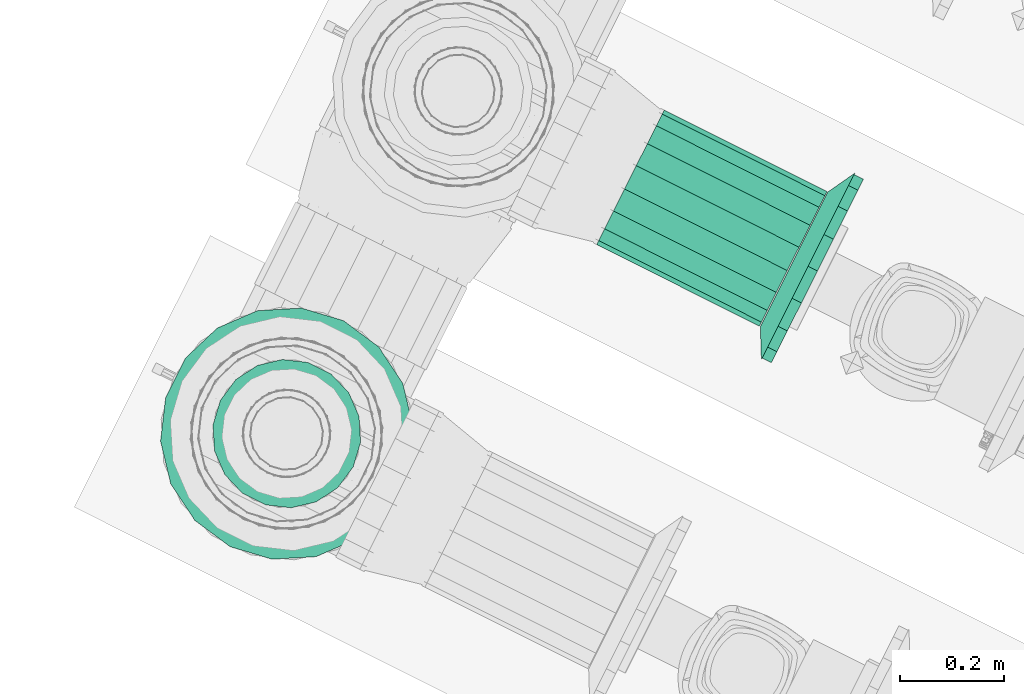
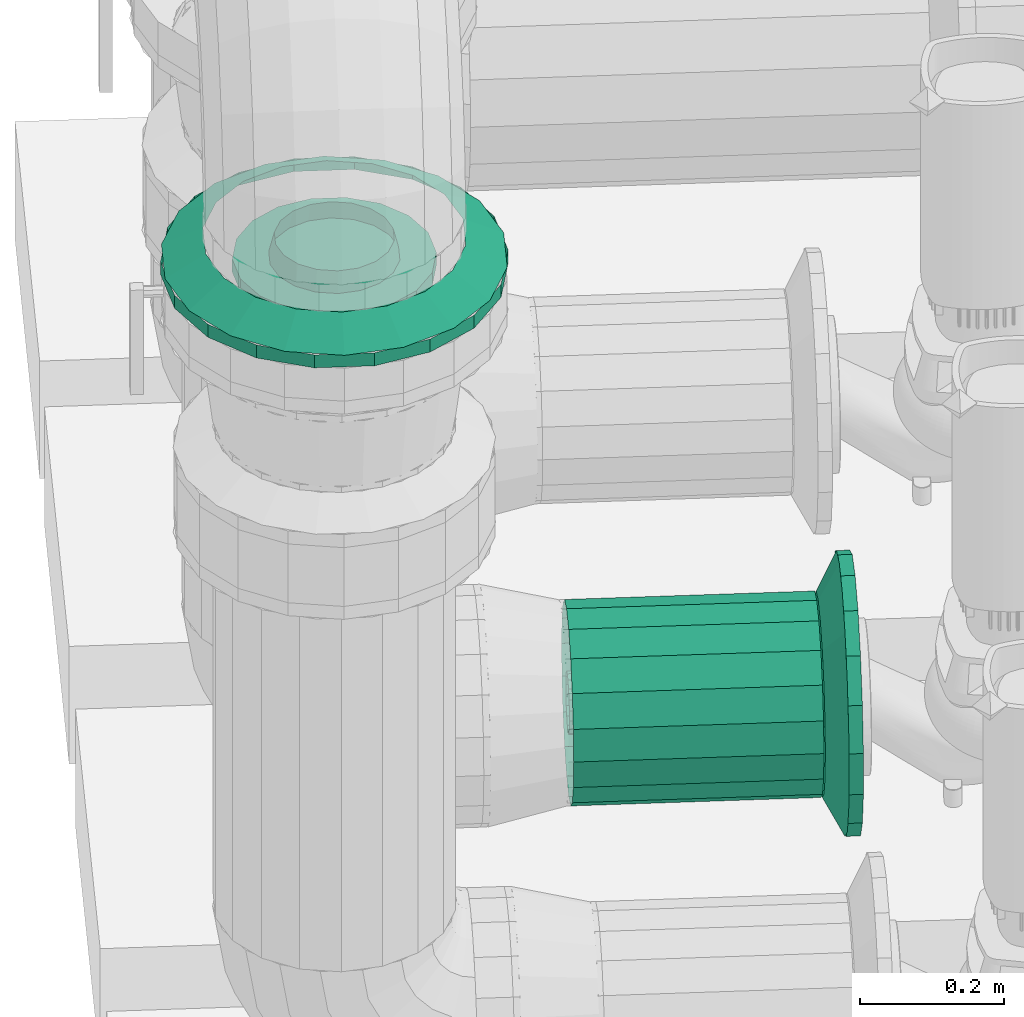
# One storey, part 101 of 152: 2 flow fittings, 1 flow segment.
"""IFC2X3 building model written with IfcOpenShell, lengths in metres."""

from ifc_helpers import new_model, si_unit, derived_unit, direction, frame, origin, place, context, subcontext, project, spatial, face_set, surface_model, source, transform, mapped, material, type_object, type_shapes, element, save


model = new_model("IFC2X3")

# Units and contexts
model_context = context("Model", 3, precision=5.2338327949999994e-05, world=origin(), true_north=direction((0.0, 1.0)))
body_context = subcontext(model_context, "Body", "Model", "MODEL_VIEW")
ifc_project = project(units=[si_unit("LENGTHUNIT", "METRE"), si_unit("AREAUNIT", "SQUARE_METRE"), si_unit("VOLUMEUNIT", "CUBIC_METRE"), si_unit("MASSUNIT", "GRAM", prefix="KILO"), si_unit("PLANEANGLEUNIT", "RADIAN"), derived_unit("THERMALTRANSMITTANCEUNIT", [(si_unit("MASSUNIT", "GRAM", prefix="KILO"), 1), (si_unit("THERMODYNAMICTEMPERATUREUNIT", "KELVIN"), -1), (si_unit("TIMEUNIT", "SECOND"), -3)])], contexts=[model_context])

# Site, building, storey
site_placement = place(None, frame((0.0, 0.0, 0.0), z_axis=(0.0, 0.0, 1.0), x_axis=(0.8939966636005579, -0.4480736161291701, 0.0)))
site = spatial("IfcSite", under=ifc_project, at=site_placement, Name="Default", CompositionType="ELEMENT")
building_placement = place(site_placement, origin())
building = spatial("IfcBuilding", under=site, at=building_placement, CompositionType="ELEMENT")
storey_placement = place(building_placement, frame((0.0, 0.0, 2.7499999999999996)))
storey = spatial("IfcBuildingStorey", under=building, at=storey_placement, Name="1. Obergeschoss", CompositionType="ELEMENT", Elevation=2.7499999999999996)

# Flow segment
ifc_material = material(Name="IfcSurfaceStyle #9317")
distribution_element_type_1 = type_object("IfcDistributionElementType", Name="Stahlrohr nach DIN 2448 221182:Stahlrohr nach DIN 2448 221182", material=ifc_material)
shared_shape_1 = source(origin(), body_context, "Body", "SurfaceModel", [
    surface_model("IfcFaceBasedSurfaceModel", [(9.994770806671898, 6.636198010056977, 3.325154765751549), (9.994770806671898, 6.63351734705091, 3.3403575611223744), (10.343925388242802, 6.63351734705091, 3.3403575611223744), (10.343925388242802, 6.636198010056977, 3.325154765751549), (9.994770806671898, 6.625798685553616, 3.353726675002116), (10.343925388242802, 6.625798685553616, 3.353726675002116), (9.994770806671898, 6.613973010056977, 3.3636495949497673), (10.343925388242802, 6.613973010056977, 3.3636495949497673), (9.994770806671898, 6.599466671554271, 3.368929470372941), (10.343925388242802, 6.599466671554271, 3.368929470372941), (9.994770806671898, 6.584029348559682, 3.368929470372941), (10.343925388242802, 6.584029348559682, 3.368929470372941), (9.994770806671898, 6.569523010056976, 3.3636495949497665), (10.343925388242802, 6.569523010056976, 3.3636495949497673), (9.994770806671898, 6.557697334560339, 3.353726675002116), (10.343925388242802, 6.557697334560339, 3.353726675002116), (9.994770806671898, 6.549978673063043, 3.3403575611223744), (10.343925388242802, 6.549978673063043, 3.3403575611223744), (9.994770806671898, 6.547298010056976, 3.325154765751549), (10.343925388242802, 6.547298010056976, 3.325154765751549), (9.994770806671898, 6.549978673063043, 3.3099519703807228), (10.343925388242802, 6.549978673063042, 3.309951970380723), (9.994770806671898, 6.557697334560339, 3.296582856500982), (10.343925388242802, 6.557697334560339, 3.296582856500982), (9.994770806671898, 6.569523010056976, 3.2866599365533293), (10.343925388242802, 6.569523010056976, 3.2866599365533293), (9.994770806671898, 6.584029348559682, 3.2813800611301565), (10.343925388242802, 6.584029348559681, 3.2813800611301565), (9.994770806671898, 6.599466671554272, 3.2813800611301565), (10.343925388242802, 6.599466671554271, 3.2813800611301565), (9.994770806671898, 6.613973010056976, 3.2866599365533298), (10.343925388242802, 6.613973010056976, 3.28665993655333), (9.994770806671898, 6.625798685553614, 3.296582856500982), (10.343925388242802, 6.625798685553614, 3.296582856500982), (9.994770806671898, 6.63351734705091, 3.309951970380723), (10.343925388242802, 6.63351734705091, 3.309951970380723), (9.994770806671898, 6.7361980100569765, 3.325154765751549), (9.994770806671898, 6.727486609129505, 3.3745595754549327), (10.343925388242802, 6.7274866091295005, 3.374559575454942), (10.343925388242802, 6.736198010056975, 3.3251547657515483), (9.994770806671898, 6.7024031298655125, 3.4180054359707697), (10.343925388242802, 6.7024031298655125, 3.4180054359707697), (9.994770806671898, 6.663973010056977, 3.4502521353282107), (10.343925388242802, 6.663973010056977, 3.4502521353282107), (9.994770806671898, 6.6168314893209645, 3.4674102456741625), (10.343925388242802, 6.6168314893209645, 3.4674102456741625), (9.994770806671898, 6.566664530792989, 3.4674102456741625), (10.343925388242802, 6.566664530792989, 3.4674102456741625), (9.994770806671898, 6.519523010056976, 3.4502521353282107), (10.343925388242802, 6.519523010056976, 3.4502521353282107), (9.994770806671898, 6.48109289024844, 3.4180054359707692), (10.343925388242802, 6.48109289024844, 3.4180054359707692), (9.994770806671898, 6.456009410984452, 3.3745595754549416), (10.343925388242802, 6.456009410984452, 3.3745595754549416), (9.994770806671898, 6.4472980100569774, 3.325154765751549), (10.343925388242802, 6.4472980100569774, 3.325154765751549), (9.994770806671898, 6.456009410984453, 3.2757499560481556), (10.343925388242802, 6.456009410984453, 3.2757499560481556), (9.994770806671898, 6.481092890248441, 3.232304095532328), (10.343925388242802, 6.481092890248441, 3.232304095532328), (9.994770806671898, 6.519523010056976, 3.200057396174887), (10.343925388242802, 6.519523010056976, 3.200057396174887), (9.994770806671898, 6.566664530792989, 3.182899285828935), (10.343925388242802, 6.566664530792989, 3.182899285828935), (9.994770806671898, 6.616831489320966, 3.182899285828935), (10.343925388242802, 6.616831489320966, 3.182899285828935), (9.994770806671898, 6.663973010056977, 3.200057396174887), (10.343925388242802, 6.663973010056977, 3.200057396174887), (9.994770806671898, 6.702403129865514, 3.232304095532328), (10.343925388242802, 6.702403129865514, 3.232304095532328), (9.994770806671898, 6.7274866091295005, 3.2757499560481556), (10.343925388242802, 6.7274866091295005, 3.2757499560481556)], [face_set([[[0, 1, 2, 3]], [[1, 4, 5, 2]], [[4, 6, 7, 5]], [[6, 8, 9, 7]], [[8, 10, 11, 9]], [[10, 12, 13, 11]], [[12, 14, 15, 13]], [[14, 16, 17, 15]], [[16, 18, 19, 17]], [[18, 20, 21, 19]], [[20, 22, 23, 21]], [[22, 24, 25, 23]], [[24, 26, 27, 25]], [[26, 28, 29, 27]], [[28, 30, 31, 29]], [[30, 32, 33, 31]], [[32, 34, 35, 33]], [[34, 0, 3, 35]], [[36, 37, 38, 39]], [[37, 40, 41, 38]], [[40, 42, 43, 41]], [[42, 44, 45, 43]], [[44, 46, 47, 45]], [[46, 48, 49, 47]], [[48, 50, 51, 49]], [[50, 52, 53, 51]], [[52, 54, 55, 53]], [[54, 56, 57, 55]], [[56, 58, 59, 57]], [[58, 60, 61, 59]], [[60, 62, 63, 61]], [[62, 64, 65, 63]], [[64, 66, 67, 65]], [[66, 68, 69, 67]], [[68, 70, 71, 69]], [[70, 36, 39, 71]]])]),
])
type_shapes(distribution_element_type_1, [shared_shape_1])
flow_segment_placement = place(storey_placement, frame((0.0, 0.0, -2.7499999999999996)))
element("IfcFlowSegment", 1, at=flow_segment_placement, inside=storey, type_object=distribution_element_type_1, material=ifc_material, Name="Stahlrohr nach DIN 2448", ObjectType="Stahlrohr nach DIN 2448", context=body_context, shape_type="MappedRepresentation", body=[
    mapped(shared_shape_1, transform((0.0, 0.0, 0.0), scale=1.0)),
])

# Flow fittings
distribution_element_type_2 = type_object("IfcDistributionElementType", Name="Flansch 221352:Flansch 221352", material=ifc_material)
shared_shape_2 = source(origin(), body_context, "Body", "SurfaceModel", [
    surface_model("IfcFaceBasedSurfaceModel", [(10.395925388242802, 6.5917480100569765, 3.2251547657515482), (10.395925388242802, 6.557545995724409, 3.231185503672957), (10.375925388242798, 6.557545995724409, 3.231185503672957), (10.375925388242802, 6.5917480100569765, 3.2251547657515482), (10.395925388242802, 6.527469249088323, 3.2485503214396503), (10.375925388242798, 6.527469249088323, 3.2485503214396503), (10.395925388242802, 6.505145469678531, 3.2751547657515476), (10.375925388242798, 6.505145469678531, 3.2751547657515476), (10.395925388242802, 6.493267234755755, 3.3077899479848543), (10.375925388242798, 6.493267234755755, 3.3077899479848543), (10.395925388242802, 6.493267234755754, 3.3425195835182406), (10.375925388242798, 6.493267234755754, 3.3425195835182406), (10.395925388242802, 6.505145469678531, 3.3751547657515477), (10.375925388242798, 6.505145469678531, 3.3751547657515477), (10.395925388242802, 6.5274692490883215, 3.401759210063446), (10.375925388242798, 6.5274692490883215, 3.401759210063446), (10.395925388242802, 6.557545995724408, 3.4191240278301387), (10.375925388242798, 6.557545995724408, 3.4191240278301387), (10.395925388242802, 6.591748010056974, 3.4251547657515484), (10.375925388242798, 6.591748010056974, 3.4251547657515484), (10.395925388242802, 6.625950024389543, 3.4191240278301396), (10.375925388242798, 6.625950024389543, 3.4191240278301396), (10.395925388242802, 6.656026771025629, 3.401759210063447), (10.375925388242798, 6.656026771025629, 3.401759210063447), (10.395925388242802, 6.678350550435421, 3.3751547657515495), (10.375925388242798, 6.678350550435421, 3.3751547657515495), (10.395925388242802, 6.690228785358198, 3.342519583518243), (10.375925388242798, 6.690228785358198, 3.342519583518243), (10.395925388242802, 6.690228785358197, 3.3077899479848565), (10.375925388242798, 6.690228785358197, 3.3077899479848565), (10.395925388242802, 6.678350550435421, 3.27515476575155), (10.375925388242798, 6.678350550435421, 3.27515476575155), (10.395925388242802, 6.656026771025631, 3.248550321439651), (10.375925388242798, 6.656026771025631, 3.248550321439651), (10.395925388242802, 6.625950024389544, 3.231185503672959), (10.375925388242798, 6.625950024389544, 3.231185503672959), (10.375925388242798, 6.591748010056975, 3.325154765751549), (10.375925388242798, 6.644248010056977, 3.325154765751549), (10.375925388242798, 6.641081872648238, 3.307198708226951), (10.345925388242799, 6.63351734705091, 3.309951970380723), (10.345925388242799, 6.636198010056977, 3.3251547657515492), (10.375925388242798, 6.631965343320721, 3.2914084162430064), (10.345925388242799, 6.625798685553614, 3.2965828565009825), (10.375925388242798, 6.617998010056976, 3.279688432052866), (10.345925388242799, 6.613973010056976, 3.2866599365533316), (10.375925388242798, 6.6008645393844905, 3.2734523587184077), (10.345925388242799, 6.599466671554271, 3.2813800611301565), (10.375925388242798, 6.582631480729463, 3.2734523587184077), (10.345925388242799, 6.584029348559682, 3.281380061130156), (10.375925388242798, 6.5654980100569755, 3.279688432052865), (10.345925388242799, 6.569523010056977, 3.2866599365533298), (10.375925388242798, 6.55153067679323, 3.2914084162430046), (10.345925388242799, 6.557697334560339, 3.2965828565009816), (10.375925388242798, 6.542414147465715, 3.307198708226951), (10.345925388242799, 6.549978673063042, 3.3099519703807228), (10.375925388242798, 6.539248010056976, 3.3251547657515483), (10.345925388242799, 6.547298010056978, 3.325154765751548), (10.375925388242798, 6.542414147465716, 3.343110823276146), (10.345925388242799, 6.549978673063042, 3.3403575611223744), (10.375925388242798, 6.551530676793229, 3.358901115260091), (10.345925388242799, 6.557697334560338, 3.3537266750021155), (10.375925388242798, 6.5654980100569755, 3.370621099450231), (10.345925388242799, 6.569523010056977, 3.3636495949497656), (10.375925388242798, 6.582631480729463, 3.37685717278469), (10.345925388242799, 6.584029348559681, 3.368929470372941), (10.375925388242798, 6.60086453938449, 3.37685717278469), (10.345925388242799, 6.599466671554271, 3.368929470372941), (10.375925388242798, 6.617998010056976, 3.370621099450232), (10.345925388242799, 6.613973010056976, 3.3636495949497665), (10.375925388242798, 6.631965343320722, 3.358901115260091), (10.345925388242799, 6.625798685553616, 3.3537266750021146), (10.375925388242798, 6.641081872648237, 3.3431108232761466), (10.345925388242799, 6.63351734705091, 3.340357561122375), (10.395925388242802, 6.591748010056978, 3.125154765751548), (10.395925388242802, 6.523343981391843, 3.1372162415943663), (10.375925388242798, 6.523343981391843, 3.1372162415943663), (10.375925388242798, 6.591748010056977, 3.1251547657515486), (10.395925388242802, 6.463190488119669, 3.1719458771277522), (10.375925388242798, 6.463190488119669, 3.1719458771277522), (10.395925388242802, 6.418542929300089, 3.2251547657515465), (10.375925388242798, 6.418542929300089, 3.2251547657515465), (10.395925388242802, 6.394786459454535, 3.29042513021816), (10.375925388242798, 6.394786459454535, 3.29042513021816), (10.395925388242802, 6.394786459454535, 3.359884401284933), (10.375925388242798, 6.394786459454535, 3.359884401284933), (10.395925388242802, 6.418542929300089, 3.4251547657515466), (10.375925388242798, 6.418542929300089, 3.4251547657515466), (10.395925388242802, 6.463190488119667, 3.4783636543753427), (10.375925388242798, 6.463190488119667, 3.4783636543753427), (10.395925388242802, 6.523343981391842, 3.513093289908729), (10.375925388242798, 6.523343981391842, 3.513093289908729), (10.395925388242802, 6.591748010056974, 3.525154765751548), (10.375925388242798, 6.591748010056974, 3.525154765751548), (10.395925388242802, 6.660152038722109, 3.5130932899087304), (10.375925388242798, 6.660152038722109, 3.5130932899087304), (10.395925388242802, 6.720305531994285, 3.478363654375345), (10.375925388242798, 6.720305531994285, 3.478363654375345), (10.395925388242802, 6.764953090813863, 3.4251547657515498), (10.375925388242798, 6.764953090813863, 3.4251547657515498), (10.395925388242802, 6.788709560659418, 3.359884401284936), (10.375925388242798, 6.788709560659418, 3.359884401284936), (10.395925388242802, 6.788709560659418, 3.2904251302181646), (10.375925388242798, 6.788709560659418, 3.2904251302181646), (10.395925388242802, 6.764953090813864, 3.2251547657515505), (10.375925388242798, 6.764953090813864, 3.2251547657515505), (10.395925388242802, 6.720305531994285, 3.1719458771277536), (10.375925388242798, 6.720305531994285, 3.1719458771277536), (10.395925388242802, 6.66015203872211, 3.137216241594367), (10.375925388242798, 6.66015203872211, 3.137216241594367), (10.375925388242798, 6.791748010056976, 3.3251547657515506), (10.375925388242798, 6.779686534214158, 3.256750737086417), (10.345925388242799, 6.7274866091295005, 3.2757499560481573), (10.3459253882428, 6.7361980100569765, 3.3251547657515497), (10.375925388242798, 6.744956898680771, 3.1965972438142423), (10.345925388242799, 6.702403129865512, 3.232304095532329), (10.375925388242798, 6.691748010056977, 3.1519496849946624), (10.345925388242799, 6.663973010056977, 3.2000573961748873), (10.375925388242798, 6.626477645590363, 3.128193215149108), (10.345925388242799, 6.616831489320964, 3.182899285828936), (10.375925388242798, 6.557018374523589, 3.1281932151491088), (10.345925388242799, 6.566664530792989, 3.182899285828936), (10.375925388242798, 6.491748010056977, 3.1519496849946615), (10.345925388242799, 6.519523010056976, 3.200057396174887), (10.375925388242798, 6.438539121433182, 3.1965972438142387), (10.345925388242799, 6.4810928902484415, 3.2323040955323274), (10.375925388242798, 6.403809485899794, 3.256750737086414), (10.345925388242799, 6.456009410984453, 3.275749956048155), (10.375925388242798, 6.391748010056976, 3.3251547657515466), (10.345925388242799, 6.447298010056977, 3.3251547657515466), (10.375925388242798, 6.403809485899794, 3.39355879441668), (10.345925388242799, 6.4560094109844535, 3.37455957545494), (10.375925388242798, 6.4385391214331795, 3.4537122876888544), (10.345925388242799, 6.481092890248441, 3.418005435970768), (10.375925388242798, 6.491748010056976, 3.4983598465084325), (10.345925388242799, 6.519523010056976, 3.4502521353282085), (10.375925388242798, 6.557018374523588, 3.522116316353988), (10.345925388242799, 6.566664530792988, 3.4674102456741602), (10.375925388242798, 6.626477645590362, 3.52211631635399), (10.345925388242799, 6.616831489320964, 3.4674102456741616), (10.375925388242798, 6.691748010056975, 3.498359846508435), (10.345925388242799, 6.663973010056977, 3.4502521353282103), (10.375925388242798, 6.744956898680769, 3.4537122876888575), (10.345925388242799, 6.702403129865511, 3.41800543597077), (10.375925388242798, 6.779686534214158, 3.393558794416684), (10.345925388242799, 6.7274866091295, 3.3745595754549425)], [face_set([[[0, 1, 2, 3]], [[1, 4, 5, 2]], [[4, 6, 7, 5]], [[6, 8, 9, 7]], [[8, 10, 11, 9]], [[10, 12, 13, 11]], [[12, 14, 15, 13]], [[14, 16, 17, 15]], [[16, 18, 19, 17]], [[18, 20, 21, 19]], [[20, 22, 23, 21]], [[22, 24, 25, 23]], [[24, 26, 27, 25]], [[26, 28, 29, 27]], [[28, 30, 31, 29]], [[30, 32, 33, 31]], [[32, 34, 35, 33]], [[34, 0, 3, 35]], [[36, 35, 3]], [[36, 33, 35]], [[36, 31, 33]], [[36, 29, 31]], [[36, 27, 29]], [[36, 25, 27]], [[36, 23, 25]], [[36, 21, 23]], [[36, 19, 21]], [[36, 17, 19]], [[36, 15, 17]], [[36, 13, 15]], [[36, 11, 13]], [[36, 9, 11]], [[36, 7, 9]], [[36, 5, 7]], [[36, 2, 5]], [[36, 3, 2]], [[37, 38, 39, 40]], [[38, 41, 42, 39]], [[41, 43, 44, 42]], [[43, 45, 46, 44]], [[45, 47, 48, 46]], [[47, 49, 50, 48]], [[49, 51, 52, 50]], [[51, 53, 54, 52]], [[53, 55, 56, 54]], [[55, 57, 58, 56]], [[57, 59, 60, 58]], [[59, 61, 62, 60]], [[61, 63, 64, 62]], [[63, 65, 66, 64]], [[65, 67, 68, 66]], [[67, 69, 70, 68]], [[69, 71, 72, 70]], [[71, 37, 40, 72]], [[73, 74, 75, 76]], [[74, 77, 78, 75]], [[77, 79, 80, 78]], [[79, 81, 82, 80]], [[81, 83, 84, 82]], [[83, 85, 86, 84]], [[85, 87, 88, 86]], [[87, 89, 90, 88]], [[89, 91, 92, 90]], [[91, 93, 94, 92]], [[93, 95, 96, 94]], [[95, 97, 98, 96]], [[97, 99, 100, 98]], [[99, 101, 102, 100]], [[101, 103, 104, 102]], [[103, 105, 106, 104]], [[105, 107, 108, 106]], [[107, 73, 76, 108]], [[109, 110, 111, 112]], [[110, 113, 114, 111]], [[113, 115, 116, 114]], [[115, 117, 118, 116]], [[117, 119, 120, 118]], [[119, 121, 122, 120]], [[121, 123, 124, 122]], [[123, 125, 126, 124]], [[125, 127, 128, 126]], [[127, 129, 130, 128]], [[129, 131, 132, 130]], [[131, 133, 134, 132]], [[133, 135, 136, 134]], [[135, 137, 138, 136]], [[137, 139, 140, 138]], [[139, 141, 142, 140]], [[141, 143, 144, 142]], [[143, 109, 112, 144]]])]),
])
type_shapes(distribution_element_type_2, [shared_shape_2])
flow_fitting_1_placement = place(storey_placement, frame((0.0, 0.0, -2.7499999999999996)))
element("IfcFlowFitting", 2, at=flow_fitting_1_placement, inside=storey, type_object=distribution_element_type_2, material=ifc_material, Name="Flansch", ObjectType="Flansch", context=body_context, shape_type="MappedRepresentation", body=[
    mapped(shared_shape_2, transform((0.0, 0.0, 0.0), scale=1.0)),
])
distribution_element_type_3 = type_object("IfcDistributionElementType", Name="Flansch 237558:Flansch 237558", material=ifc_material)
shared_shape_3 = source(origin(), body_context, "Body", "SurfaceModel", [
    surface_model("IfcFaceBasedSurfaceModel", [(9.625770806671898, 5.94093762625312, 4.647306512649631), (9.654551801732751, 5.9358627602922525, 4.64730651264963), (9.657236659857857, 5.943239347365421, 4.614306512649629), (9.625770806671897, 5.948787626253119, 4.61430651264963), (9.679861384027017, 5.921250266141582, 4.64730651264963), (9.684907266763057, 5.927263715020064, 4.614306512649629), (9.698646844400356, 5.89886262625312, 4.64730651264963), (9.70544514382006, 5.902787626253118, 4.614306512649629), (9.708642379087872, 5.8714001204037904, 4.64730651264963), (9.71637311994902, 5.872763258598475, 4.614306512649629), (9.708642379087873, 5.842175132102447, 4.647306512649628), (9.71637311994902, 5.840811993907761, 4.614306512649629), (9.69864684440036, 5.814712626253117, 4.647306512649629), (9.705445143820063, 5.810787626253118, 4.61430651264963), (9.679861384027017, 5.792324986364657, 4.64730651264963), (9.684907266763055, 5.7863115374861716, 4.614306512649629), (9.654551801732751, 5.777712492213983, 4.64730651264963), (9.657236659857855, 5.770335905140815, 4.614306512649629), (9.625770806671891, 5.772637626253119, 4.64730651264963), (9.625770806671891, 5.764787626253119, 4.614306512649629), (9.59698981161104, 5.777712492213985, 4.64730651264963), (9.594304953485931, 5.770335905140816, 4.614306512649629), (9.571680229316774, 5.792324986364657, 4.647306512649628), (9.566634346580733, 5.7863115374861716, 4.614306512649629), (9.552894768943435, 5.814712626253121, 4.64730651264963), (9.546096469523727, 5.810787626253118, 4.614306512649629), (9.542899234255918, 5.842175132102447, 4.64730651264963), (9.535168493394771, 5.840811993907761, 4.61430651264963), (9.542899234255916, 5.8714001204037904, 4.64730651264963), (9.535168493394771, 5.872763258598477, 4.614306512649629), (9.552894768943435, 5.89886262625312, 4.64730651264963), (9.546096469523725, 5.902787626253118, 4.614306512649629), (9.571680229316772, 5.921250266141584, 4.64730651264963), (9.566634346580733, 5.927263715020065, 4.614306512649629), (9.596989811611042, 5.935862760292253, 4.64730651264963), (9.594304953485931, 5.94323934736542, 4.614306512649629), (9.483270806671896, 5.856787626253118, 4.614306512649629), (9.491864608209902, 5.905525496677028, 4.614306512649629), (9.491864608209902, 5.905525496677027, 4.592306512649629), (9.483270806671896, 5.856787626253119, 4.592306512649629), (9.516609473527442, 5.948384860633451, 4.614306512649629), (9.51660947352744, 5.9483848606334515, 4.592306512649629), (9.5545208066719, 5.980196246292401, 4.614306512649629), (9.554520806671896, 5.9801962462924, 4.592306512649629), (9.60102594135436, 5.997122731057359, 4.614306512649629), (9.601025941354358, 5.997122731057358, 4.592306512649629), (9.650515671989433, 5.997122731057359, 4.614306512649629), (9.650515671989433, 5.997122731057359, 4.59230651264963), (9.6970208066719, 5.980196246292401, 4.614306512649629), (9.697020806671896, 5.980196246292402, 4.592306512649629), (9.734932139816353, 5.948384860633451, 4.614306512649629), (9.734932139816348, 5.948384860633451, 4.59230651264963), (9.759677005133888, 5.905525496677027, 4.614306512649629), (9.759677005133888, 5.905525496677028, 4.592306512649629), (9.768270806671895, 5.856787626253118, 4.614306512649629), (9.768270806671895, 5.856787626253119, 4.592306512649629), (9.759677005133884, 5.808049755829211, 4.614306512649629), (9.759677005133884, 5.808049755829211, 4.592306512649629), (9.734932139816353, 5.765190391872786, 4.614306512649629), (9.734932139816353, 5.765190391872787, 4.59230651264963), (9.697020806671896, 5.733379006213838, 4.614306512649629), (9.697020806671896, 5.733379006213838, 4.59230651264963), (9.650515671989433, 5.716452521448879, 4.614306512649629), (9.650515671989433, 5.716452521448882, 4.592306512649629), (9.601025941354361, 5.716452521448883, 4.614306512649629), (9.601025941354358, 5.716452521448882, 4.592306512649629), (9.554520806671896, 5.733379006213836, 4.614306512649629), (9.554520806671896, 5.733379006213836, 4.592306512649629), (9.51660947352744, 5.765190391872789, 4.614306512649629), (9.51660947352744, 5.765190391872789, 4.592306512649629), (9.491864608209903, 5.808049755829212, 4.614306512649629), (9.491864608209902, 5.80804975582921, 4.592306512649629), (9.625770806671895, 5.856787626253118, 4.6143065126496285), (9.625770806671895, 6.040937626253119, 4.64730651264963), (9.688753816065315, 6.029832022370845, 4.64730651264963), (9.708710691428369, 6.084663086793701, 4.614306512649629), (9.625770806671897, 6.099287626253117, 4.614306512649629), (9.744140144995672, 5.99785471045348, 4.647306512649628), (9.781646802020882, 6.042553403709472, 4.6143065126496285), (9.7852493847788, 5.948862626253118, 4.647306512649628), (9.835781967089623, 5.978037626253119, 4.614306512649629), (9.807123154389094, 5.8887649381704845, 4.64730651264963), (9.86458668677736, 5.8988973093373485, 4.61430651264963), (9.807123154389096, 5.824810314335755, 4.64730651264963), (9.86458668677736, 5.814677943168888, 4.614306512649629), (9.7852493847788, 5.76471262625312, 4.647306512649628), (9.835781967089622, 5.73553762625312, 4.614306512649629), (9.744140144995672, 5.715720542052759, 4.647306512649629), (9.781646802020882, 5.671021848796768, 4.61430651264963), (9.688753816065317, 5.683743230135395, 4.64730651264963), (9.708710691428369, 5.628912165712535, 4.6143065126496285), (9.625770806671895, 5.67263762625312, 4.647306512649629), (9.625770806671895, 5.61428762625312, 4.6143065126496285), (9.562787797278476, 5.683743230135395, 4.647306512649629), (9.542830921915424, 5.628912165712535, 4.6143065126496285), (9.507401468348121, 5.715720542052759, 4.647306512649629), (9.46989481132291, 5.671021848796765, 4.6143065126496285), (9.466292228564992, 5.76471262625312, 4.647306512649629), (9.41575964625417, 5.73553762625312, 4.61430651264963), (9.444418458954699, 5.824810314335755, 4.64730651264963), (9.386954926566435, 5.814677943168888, 4.614306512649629), (9.444418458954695, 5.888764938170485, 4.64730651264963), (9.386954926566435, 5.898897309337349, 4.614306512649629), (9.466292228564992, 5.94886262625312, 4.647306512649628), (9.415759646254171, 5.978037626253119, 4.6143065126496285), (9.507401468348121, 5.997854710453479, 4.64730651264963), (9.46989481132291, 6.042553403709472, 4.614306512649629), (9.562787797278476, 6.0298320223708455, 4.64730651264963), (9.542830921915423, 6.084663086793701, 4.614306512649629), (9.383270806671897, 5.856787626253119, 4.614306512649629), (9.397895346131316, 5.939727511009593, 4.614306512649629), (9.397895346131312, 5.939727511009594, 4.592306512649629), (9.383270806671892, 5.856787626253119, 4.592306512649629), (9.440005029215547, 6.012663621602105, 4.614306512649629), (9.440005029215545, 6.012663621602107, 4.592306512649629), (9.504520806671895, 6.066798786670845, 4.614306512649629), (9.504520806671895, 6.066798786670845, 4.592306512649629), (9.583661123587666, 6.095603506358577, 4.614306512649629), (9.583661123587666, 6.09560350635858, 4.592306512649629), (9.667880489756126, 6.0956035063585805, 4.614306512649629), (9.667880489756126, 6.095603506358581, 4.592306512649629), (9.747020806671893, 6.066798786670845, 4.6143065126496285), (9.747020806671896, 6.066798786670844, 4.592306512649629), (9.811536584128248, 6.012663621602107, 4.614306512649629), (9.811536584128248, 6.012663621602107, 4.592306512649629), (9.853646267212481, 5.939727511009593, 4.614306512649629), (9.853646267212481, 5.939727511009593, 4.592306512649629), (9.868270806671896, 5.856787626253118, 4.614306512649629), (9.868270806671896, 5.856787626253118, 4.592306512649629), (9.853646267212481, 5.7738477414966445, 4.614306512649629), (9.853646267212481, 5.773847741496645, 4.59230651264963), (9.811536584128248, 5.700911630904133, 4.614306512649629), (9.811536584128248, 5.700911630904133, 4.592306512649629), (9.747020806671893, 5.6467764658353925, 4.614306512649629), (9.747020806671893, 5.6467764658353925, 4.592306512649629), (9.667880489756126, 5.6179717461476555, 4.614306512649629), (9.667880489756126, 5.617971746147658, 4.592306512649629), (9.583661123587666, 5.617971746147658, 4.614306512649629), (9.583661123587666, 5.617971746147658, 4.592306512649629), (9.504520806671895, 5.6467764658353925, 4.614306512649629), (9.504520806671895, 5.6467764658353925, 4.592306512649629), (9.440005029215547, 5.700911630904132, 4.614306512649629), (9.440005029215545, 5.700911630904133, 4.592306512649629), (9.397895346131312, 5.773847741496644, 4.614306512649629), (9.397895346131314, 5.773847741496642, 4.592306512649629)], [face_set([[[0, 1, 2, 3]], [[1, 4, 5, 2]], [[4, 6, 7, 5]], [[6, 8, 9, 7]], [[8, 10, 11, 9]], [[10, 12, 13, 11]], [[12, 14, 15, 13]], [[14, 16, 17, 15]], [[16, 18, 19, 17]], [[18, 20, 21, 19]], [[20, 22, 23, 21]], [[22, 24, 25, 23]], [[24, 26, 27, 25]], [[26, 28, 29, 27]], [[28, 30, 31, 29]], [[30, 32, 33, 31]], [[32, 34, 35, 33]], [[34, 0, 3, 35]], [[36, 37, 38, 39]], [[37, 40, 41, 38]], [[40, 42, 43, 41]], [[42, 44, 45, 43]], [[44, 46, 47, 45]], [[46, 48, 49, 47]], [[48, 50, 51, 49]], [[50, 52, 53, 51]], [[52, 54, 55, 53]], [[54, 56, 57, 55]], [[56, 58, 59, 57]], [[58, 60, 61, 59]], [[60, 62, 63, 61]], [[62, 64, 65, 63]], [[64, 66, 67, 65]], [[66, 68, 69, 67]], [[68, 70, 71, 69]], [[70, 36, 39, 71]], [[72, 37, 36]], [[72, 40, 37]], [[72, 42, 40]], [[72, 44, 42]], [[72, 46, 44]], [[72, 48, 46]], [[72, 50, 48]], [[72, 52, 50]], [[72, 54, 52]], [[72, 56, 54]], [[72, 58, 56]], [[72, 60, 58]], [[72, 62, 60]], [[72, 64, 62]], [[72, 66, 64]], [[72, 68, 66]], [[72, 70, 68]], [[72, 36, 70]], [[73, 74, 75, 76]], [[74, 77, 78, 75]], [[77, 79, 80, 78]], [[79, 81, 82, 80]], [[81, 83, 84, 82]], [[83, 85, 86, 84]], [[85, 87, 88, 86]], [[87, 89, 90, 88]], [[89, 91, 92, 90]], [[91, 93, 94, 92]], [[93, 95, 96, 94]], [[95, 97, 98, 96]], [[97, 99, 100, 98]], [[99, 101, 102, 100]], [[101, 103, 104, 102]], [[103, 105, 106, 104]], [[105, 107, 108, 106]], [[107, 73, 76, 108]], [[109, 110, 111, 112]], [[110, 113, 114, 111]], [[113, 115, 116, 114]], [[115, 117, 118, 116]], [[117, 119, 120, 118]], [[119, 121, 122, 120]], [[121, 123, 124, 122]], [[123, 125, 126, 124]], [[125, 127, 128, 126]], [[127, 129, 130, 128]], [[129, 131, 132, 130]], [[131, 133, 134, 132]], [[133, 135, 136, 134]], [[135, 137, 138, 136]], [[137, 139, 140, 138]], [[139, 141, 142, 140]], [[141, 143, 144, 142]], [[143, 109, 112, 144]]])]),
])
type_shapes(distribution_element_type_3, [shared_shape_3])
flow_fitting_2_placement = place(storey_placement, frame((0.0, 0.0, -2.7499999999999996)))
element("IfcFlowFitting", 3, at=flow_fitting_2_placement, inside=storey, type_object=distribution_element_type_3, material=ifc_material, Name="Flansch", ObjectType="Flansch", context=body_context, shape_type="MappedRepresentation", body=[
    mapped(shared_shape_3, transform((0.0, 0.0, 0.0), scale=1.0)),
])

save(model, "model.ifc")
